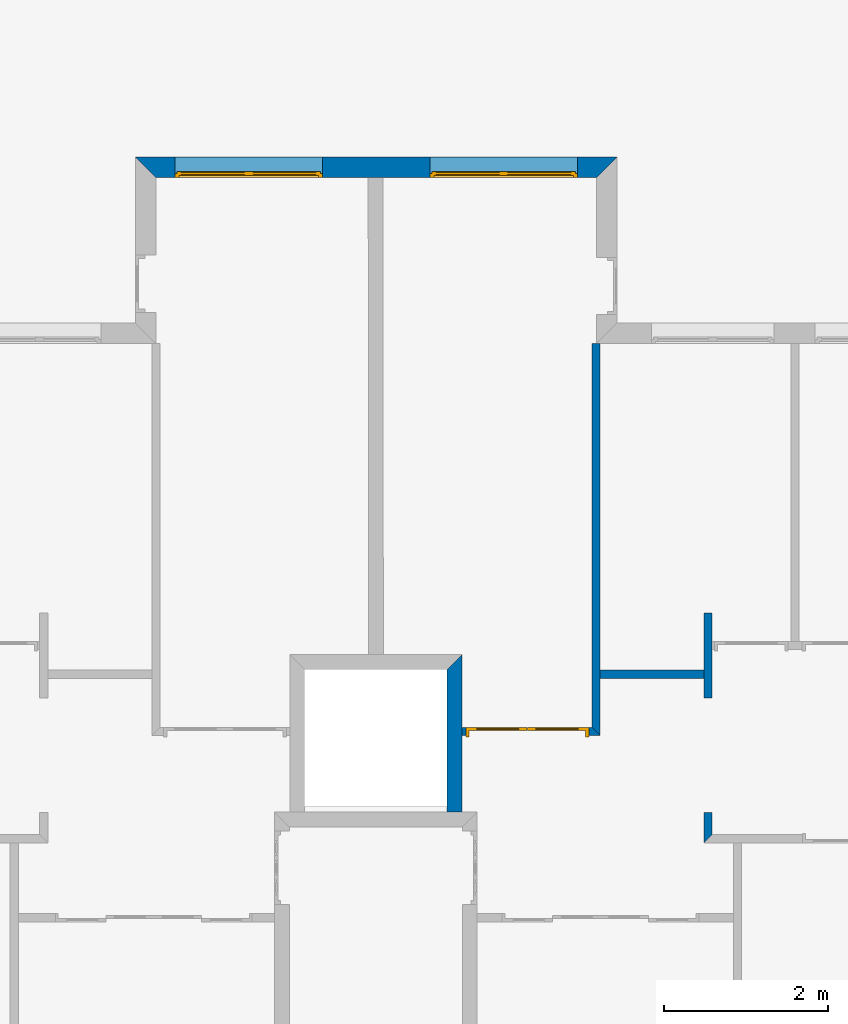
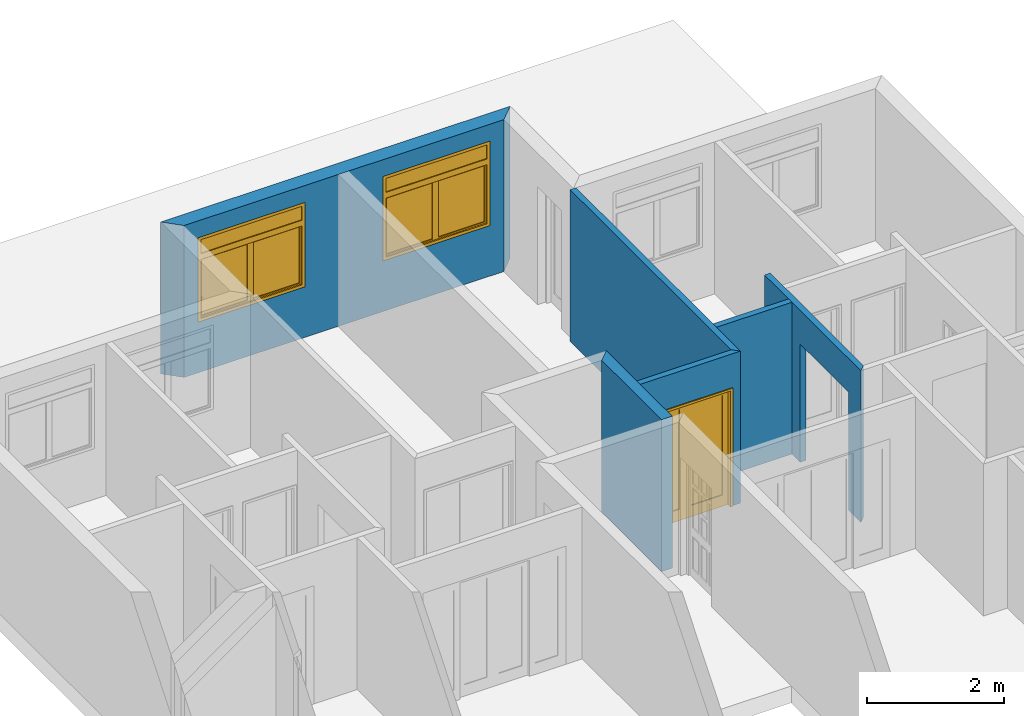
# One storey, part 11 of 12: 6 walls, 2 windows, 1 door, 4 openings.
"""IFC2X3 building model written with IfcOpenShell, lengths in metres."""

from ifc_helpers import new_model, entity, si_unit, converted_unit, direction, frame, frame_2d, origin_with_axes, place, context, project, spatial, polyline, rectangle, outline, extrude, faceted_brep, source, transform, mapped, material, layer, layer_set, layer_usage, type_object, element, fill, save


model = new_model("IFC2X3")

# Units and contexts
context_of_model = context(None, 3, precision=1e-05, world=origin_with_axes(), true_north=direction((6.123234e-17, 1.0)))
plan_context = context("Plan", 3, precision=1e-05, world=origin_with_axes(), true_north=direction((6.123234e-17, 1.0)))
model_context = context("Model", 3, precision=1e-05, world=origin_with_axes(), true_north=direction((6.123234e-17, 1.0)))
ifc_project = project(units=[si_unit("LENGTHUNIT", "METRE"), si_unit("AREAUNIT", "SQUARE_METRE"), si_unit("VOLUMEUNIT", "CUBIC_METRE"), converted_unit("PLANEANGLEUNIT", "DEGREE", entity("IfcPlaneAngleMeasure", 0.017453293), si_unit("PLANEANGLEUNIT", "RADIAN"), dimensions=[0, 0, 0, 0, 0, 0, 0]), si_unit("SOLIDANGLEUNIT", "STERADIAN"), si_unit("MASSUNIT", "GRAM"), si_unit("TIMEUNIT", "SECOND"), si_unit("THERMODYNAMICTEMPERATUREUNIT", "DEGREE_CELSIUS"), si_unit("LUMINOUSINTENSITYUNIT", "LUMEN")], contexts=[context_of_model, plan_context, model_context])

# Site, building, storey
site_placement = place(None, origin_with_axes())
site = spatial("IfcSite", under=ifc_project, at=site_placement, Name="Por defecto Sitio", CompositionType="ELEMENT")
building_placement = place(site_placement, origin_with_axes())
building = spatial("IfcBuilding", under=site, at=building_placement, Name="Por defecto Edificio", CompositionType="ELEMENT")
storey_placement = place(building_placement, frame((0.0, 0.0, 4.2), z_axis=(0.0, 0.0, 1.0), x_axis=(1.0, 0.0, 0.0)))
storey = spatial("IfcBuildingStorey", under=building, at=storey_placement, Name="Primera", CompositionType="ELEMENT", Elevation=4.2)

# Wall, openings, windows
ifc_material = material(Name="Ladrillo común")
ifc_layer_1 = layer(ifc_material, 0.25, ventilated="UNKNOWN")
ifc_layer_set_1 = layer_set([ifc_layer_1], Name="Ladrillo común")
ifc_layer_usage_1 = layer_usage(ifc_layer_set_1, "AXIS2", "NEGATIVE", 0.0)
wall_type_1 = type_object("IfcWallType", Name="Ladrillo común", PredefinedType="NOTDEFINED")
wall_1_placement = place(storey_placement, frame((5.0781164, 15.472599, 0.0), z_axis=(0.0, 0.0, 1.0), x_axis=(1.0, 0.0, 0.0)))
wall_1 = element("IfcWallStandardCase", 1, at=wall_1_placement, inside=storey, type_object=wall_type_1, material=ifc_layer_usage_1, Name="Muro-014", context=context_of_model, shape_type="SweptSolid", body=[
    extrude(outline(polyline([(0.25, -0.25), (5.627937, -0.25), (5.877937, 0.0), (0.0, 0.0), (0.25, -0.25)])), origin_with_axes(), (0.0, 0.0, 1.0), 2.7),
])
opening_1_placement = place(wall_1_placement, frame((4.4950854, -0.25, 0.9), z_axis=(0.0, 0.0, 1.0), x_axis=(1.0, 0.0, 0.0)))
opening_1 = element("IfcOpeningElement", 2, at=opening_1_placement, cuts=wall_1, ObjectType="Opening", context=model_context, shape_type="SweptSolid", body=[
    extrude(rectangle(XDim=1.8, YDim=1.5, at=frame_2d((0.0, 0.75), x_axis=(-1.0, 0.0))), frame((0.0, 0.0, 0.0), z_axis=(0.0, 1.0, 0.0), x_axis=(-1.0, 0.0, 0.0)), (0.0, 0.0, 1.0), 0.25),
])
opening_2_placement = place(wall_1_placement, frame((1.3828517, -0.25, 0.9), z_axis=(0.0, 0.0, 1.0), x_axis=(1.0, 0.0, 0.0)))
opening_2 = element("IfcOpeningElement", 3, at=opening_2_placement, cuts=wall_1, ObjectType="Opening", context=model_context, shape_type="SweptSolid", body=[
    extrude(rectangle(XDim=1.8, YDim=1.5, at=frame_2d((4.4408921e-16, 0.75), x_axis=(1.0, 0.0))), frame((0.0, 0.0, 0.0), z_axis=(0.0, 1.0, 0.0), x_axis=(-1.0, 0.0, 0.0)), (0.0, 0.0, 1.0), 0.25),
])
window_style_1 = type_object("IfcWindowStyle", Name="V M Doble 12", ConstructionType="NOTDEFINED", OperationType="DOUBLE_PANEL_HORIZONTAL", ParameterTakesPrecedence=False, Sizeable=False)
shared_shape_1 = source(origin_with_axes(), model_context, "Body", "Brep", [
    faceted_brep([(0.025, 0.05, 0.05), (0.0, 0.05, 0.05), (0.0, 0.05, 1.45), (0.05, 0.05, 1.45), (0.05, 0.05, 1.2), (0.05, 0.05, 1.125), (0.025, 0.05, 1.125), (0.025, 0.025, 0.05), (0.05, 0.025, 0.05), (0.05, 0.0, 0.05), (0.0, 0.0, 0.05), (0.0, 0.0, 1.45), (0.05, 0.0, 1.45), (0.05, 0.0, 1.2), (0.05, 0.025, 1.125), (0.05, 0.0, 1.1), (0.05, 0.025, 1.1), (0.025, 0.025, 1.125)], [[[0, 1, 2, 3, 4, 5, 6]], [[7, 8, 9, 10, 1, 0]], [[2, 1, 10, 11]], [[3, 2, 11, 12]], [[4, 3, 12, 13]], [[14, 5, 4, 13, 15, 16]], [[14, 17, 6, 5]], [[6, 17, 7, 0]], [[16, 8, 7, 17, 14]], [[16, 15, 9, 8]], [[13, 12, 11, 10, 9, 15]]]),
    faceted_brep([(1.775, 0.05, 1.125), (1.75, 0.05, 1.125), (1.75, 0.05, 1.2), (1.75, 0.05, 1.45), (1.8, 0.05, 1.45), (1.8, 0.05, 0.05), (1.775, 0.05, 0.05), (1.775, 0.025, 1.125), (1.75, 0.025, 1.125), (1.75, 0.025, 1.1), (1.75, 0.0, 1.1), (1.75, 0.0, 1.2), (1.75, 0.0, 1.45), (1.8, 0.0, 1.45), (1.8, 0.0, 0.05), (1.775, 0.025, 0.05), (1.75, 0.0, 0.05), (1.75, 0.025, 0.05)], [[[0, 1, 2, 3, 4, 5, 6]], [[0, 7, 8, 1]], [[8, 9, 10, 11, 2, 1]], [[3, 2, 11, 12]], [[4, 3, 12, 13]], [[5, 4, 13, 14]], [[15, 6, 5, 14, 16, 17]], [[6, 15, 7, 0]], [[17, 9, 8, 7, 15]], [[17, 16, 10, 9]], [[14, 13, 12, 11, 10, 16]]]),
    faceted_brep([(0.05, 0.05, 1.125), (0.05, 0.05, 1.2), (1.75, 0.05, 1.2), (1.75, 0.05, 1.125), (0.9, 0.05, 1.125), (0.05, 0.025, 1.125), (0.05, 0.025, 1.1), (0.05, 0.0, 1.1), (0.05, 0.0, 1.2), (1.75, 0.0, 1.2), (1.75, 0.025, 1.125), (1.75, 0.0, 1.1), (1.75, 0.025, 1.1), (0.9, 0.025, 1.125)], [[[0, 1, 2, 3, 4]], [[5, 6, 7, 8, 1, 0]], [[2, 1, 8, 9]], [[10, 3, 2, 9, 11, 12]], [[10, 13, 4, 3]], [[4, 13, 5, 0]], [[12, 6, 5, 13, 10]], [[12, 11, 7, 6]], [[9, 8, 7, 11]]]),
    faceted_brep([(1.75, 0.025, 0.05), (1.75, 0.0, 0.05), (1.8, 0.0, 0.05), (1.8, 0.05, 0.05), (1.775, 0.05, 0.05), (1.775, 0.025, 0.05), (0.05, 0.025, 0.05), (0.05, 0.0, 0.05), (0.0, 0.0, 0.05), (0.0, 0.0, 0.0), (1.8, 0.0, 0.0), (1.8, 0.05, 0.0), (0.025, 0.05, 0.025), (0.9, 0.05, 0.025), (1.775, 0.05, 0.025), (0.0, 0.05, 0.0), (0.0, 0.05, 0.05), (0.025, 0.05, 0.05), (1.775, 0.025, 0.025), (0.9, 0.025, 0.025), (0.025, 0.025, 0.025), (0.025, 0.025, 0.05)], [[[0, 1, 2, 3, 4, 5]], [[6, 7, 1, 0]], [[8, 9, 10, 2, 1, 7]], [[11, 3, 2, 10]], [[12, 13, 14, 4, 3, 11, 15, 16, 17]], [[14, 18, 5, 4]], [[5, 18, 19, 20, 21, 6, 0]], [[21, 17, 16, 8, 7, 6]], [[16, 15, 9, 8]], [[15, 11, 10, 9]], [[12, 20, 19, 13]], [[13, 19, 18, 14]], [[21, 20, 12, 17]]]),
    faceted_brep([(1.75, 0.0, 1.45), (1.75, 0.05, 1.45), (1.8, 0.05, 1.45), (1.8, 0.0, 1.45), (0.05, 0.0, 1.45), (0.05, 0.05, 1.45), (0.0, 0.05, 1.45), (0.0, 0.05, 1.5), (1.8, 0.05, 1.5), (1.8, 0.0, 1.5), (0.0, 0.0, 1.5), (0.0, 0.0, 1.45)], [[[0, 1, 2, 3]], [[4, 5, 1, 0]], [[1, 5, 6, 7, 8, 2]], [[3, 2, 8, 9]], [[0, 3, 9, 10, 11, 4]], [[11, 6, 5, 4]], [[10, 7, 6, 11]], [[9, 8, 7, 10]]]),
    faceted_brep([(1.725, 0.025, 0.075), (1.725, 0.025, 1.075), (1.725, 0.075, 1.075), (1.725, 0.075, 0.075), (1.775, 0.025, 0.075), (1.775, 0.025, 1.075), (1.775, 0.075, 1.075), (1.775, 0.075, 0.075)], [[[0, 1, 2, 3]], [[0, 4, 5, 1]], [[1, 5, 6, 2]], [[3, 2, 6, 7]], [[4, 0, 3, 7]], [[5, 4, 7, 6]]]),
    faceted_brep([(0.9, 0.025, 0.075), (0.9, 0.025, 1.075), (0.9, 0.075, 1.075), (0.9, 0.075, 0.075), (0.95, 0.025, 0.075), (0.95, 0.025, 1.075), (0.95, 0.075, 1.075), (0.95, 0.075, 0.075)], [[[0, 1, 2, 3]], [[0, 4, 5, 1]], [[1, 5, 6, 2]], [[3, 2, 6, 7]], [[4, 0, 3, 7]], [[5, 4, 7, 6]]]),
    faceted_brep([(0.9, 0.025, 0.025), (0.9, 0.025, 0.075), (0.9, 0.075, 0.075), (0.9, 0.075, 0.025), (1.775, 0.025, 0.025), (1.775, 0.025, 0.075), (1.725, 0.025, 0.075), (0.95, 0.025, 0.075), (0.95, 0.075, 0.075), (1.725, 0.075, 0.075), (1.775, 0.075, 0.075), (1.775, 0.075, 0.025)], [[[0, 1, 2, 3]], [[0, 4, 5, 6, 7, 1]], [[1, 7, 8, 2]], [[3, 2, 8, 9, 10, 11]], [[4, 0, 3, 11]], [[5, 4, 11, 10]], [[6, 5, 10, 9]], [[7, 6, 9, 8]]]),
    faceted_brep([(1.775, 0.025, 1.125), (1.775, 0.025, 1.075), (1.775, 0.075, 1.075), (1.775, 0.075, 1.125), (0.9, 0.025, 1.125), (0.9, 0.025, 1.075), (0.95, 0.025, 1.075), (1.725, 0.025, 1.075), (1.725, 0.075, 1.075), (0.95, 0.075, 1.075), (0.9, 0.075, 1.075), (0.9, 0.075, 1.125)], [[[0, 1, 2, 3]], [[0, 4, 5, 6, 7, 1]], [[1, 7, 8, 2]], [[3, 2, 8, 9, 10, 11]], [[4, 0, 3, 11]], [[5, 4, 11, 10]], [[6, 5, 10, 9]], [[7, 6, 9, 8]]]),
    faceted_brep([(1.725, 0.04, 0.075), (0.95, 0.04, 0.075), (0.95, 0.06, 0.075), (1.725, 0.06, 0.075), (1.725, 0.04, 1.075), (0.95, 0.04, 1.075), (0.95, 0.06, 1.075), (1.725, 0.06, 1.075)], [[[0, 1, 2, 3]], [[0, 4, 5, 1]], [[1, 5, 6, 2]], [[3, 2, 6, 7]], [[4, 0, 3, 7]], [[5, 4, 7, 6]]]),
    faceted_brep([(0.85, 0.025, 0.075), (0.85, 0.025, 1.075), (0.85, 0.075, 1.075), (0.85, 0.075, 0.075), (0.9, 0.025, 0.075), (0.9, 0.025, 1.075), (0.9, 0.075, 1.075), (0.9, 0.075, 0.075)], [[[0, 1, 2, 3]], [[0, 4, 5, 1]], [[1, 5, 6, 2]], [[3, 2, 6, 7]], [[4, 0, 3, 7]], [[5, 4, 7, 6]]]),
    faceted_brep([(0.025, 0.025, 0.075), (0.025, 0.025, 1.075), (0.025, 0.075, 1.075), (0.025, 0.075, 0.075), (0.075, 0.025, 0.075), (0.075, 0.025, 1.075), (0.075, 0.075, 1.075), (0.075, 0.075, 0.075)], [[[0, 1, 2, 3]], [[0, 4, 5, 1]], [[1, 5, 6, 2]], [[3, 2, 6, 7]], [[4, 0, 3, 7]], [[5, 4, 7, 6]]]),
    faceted_brep([(0.025, 0.025, 0.025), (0.025, 0.025, 0.075), (0.025, 0.075, 0.075), (0.025, 0.075, 0.025), (0.9, 0.025, 0.025), (0.9, 0.025, 0.075), (0.85, 0.025, 0.075), (0.075, 0.025, 0.075), (0.075, 0.075, 0.075), (0.85, 0.075, 0.075), (0.9, 0.075, 0.075), (0.9, 0.075, 0.025)], [[[0, 1, 2, 3]], [[0, 4, 5, 6, 7, 1]], [[1, 7, 8, 2]], [[3, 2, 8, 9, 10, 11]], [[4, 0, 3, 11]], [[5, 4, 11, 10]], [[6, 5, 10, 9]], [[7, 6, 9, 8]]]),
    faceted_brep([(0.9, 0.025, 1.125), (0.9, 0.025, 1.075), (0.9, 0.075, 1.075), (0.9, 0.075, 1.125), (0.025, 0.025, 1.125), (0.025, 0.025, 1.075), (0.075, 0.025, 1.075), (0.85, 0.025, 1.075), (0.85, 0.075, 1.075), (0.075, 0.075, 1.075), (0.025, 0.075, 1.075), (0.025, 0.075, 1.125)], [[[0, 1, 2, 3]], [[0, 4, 5, 6, 7, 1]], [[1, 7, 8, 2]], [[3, 2, 8, 9, 10, 11]], [[4, 0, 3, 11]], [[5, 4, 11, 10]], [[6, 5, 10, 9]], [[7, 6, 9, 8]]]),
    faceted_brep([(0.85, 0.04, 0.075), (0.075, 0.04, 0.075), (0.075, 0.06, 0.075), (0.85, 0.06, 0.075), (0.85, 0.04, 1.075), (0.075, 0.04, 1.075), (0.075, 0.06, 1.075), (0.85, 0.06, 1.075)], [[[0, 1, 2, 3]], [[0, 4, 5, 1]], [[1, 5, 6, 2]], [[3, 2, 6, 7]], [[4, 0, 3, 7]], [[5, 4, 7, 6]]]),
    faceted_brep([(1.75, 0.015, 1.2), (0.05, 0.015, 1.2), (0.05, 0.035, 1.2), (1.75, 0.035, 1.2), (1.75, 0.015, 1.45), (0.05, 0.015, 1.45), (0.05, 0.035, 1.45), (1.75, 0.035, 1.45)], [[[0, 1, 2, 3]], [[0, 4, 5, 1]], [[1, 5, 6, 2]], [[3, 2, 6, 7]], [[4, 0, 3, 7]], [[5, 4, 7, 6]]]),
])
window_1_placement = place(opening_1_placement, frame((-0.9, 0.0, 0.0), z_axis=(0.0, 0.0, 1.0), x_axis=(1.0, 0.0, 0.0)))
window_1 = element("IfcWindow", 4, at=window_1_placement, inside=storey, type_object=window_style_1, Name="V07", OverallHeight=1.5, OverallWidth=1.8, context=model_context, shape_type="MappedRepresentation", body=[
    mapped(shared_shape_1, transform((0.0, 0.0, 0.0), scale=1.0)),
])
fill(opening_1, window_1)
window_style_2 = type_object("IfcWindowStyle", Name="V M Doble 12", ConstructionType="NOTDEFINED", OperationType="DOUBLE_PANEL_HORIZONTAL", ParameterTakesPrecedence=False, Sizeable=False)
window_2_placement = place(opening_2_placement, frame((-0.9, 0.0, 0.0), z_axis=(0.0, 0.0, 1.0), x_axis=(1.0, 0.0, 0.0)))
window_2 = element("IfcWindow", 5, at=window_2_placement, inside=storey, type_object=window_style_2, Name="V08", OverallHeight=1.5, OverallWidth=1.8, context=model_context, shape_type="MappedRepresentation", body=[
    mapped(shared_shape_1, transform((0.0, 0.0, 0.0), scale=1.0)),
])
fill(opening_2, window_2)

# Wall
ifc_layer_2 = layer(ifc_material, 0.18, ventilated="UNKNOWN")
ifc_layer_set_2 = layer_set([ifc_layer_2], Name="Ladrillo común")
ifc_layer_usage_2 = layer_usage(ifc_layer_set_2, "AXIS2", "NEGATIVE", 0.0)
wall_type_2 = type_object("IfcWallType", Name="Ladrillo común", PredefinedType="NOTDEFINED")
wall_2_placement = place(storey_placement, frame((9.065, 9.4007615, 0.0), z_axis=(0.0, 0.0, 1.0), x_axis=(0.0, -1.0, 0.0)))
element("IfcWallStandardCase", 6, at=wall_2_placement, inside=storey, type_object=wall_type_2, material=ifc_layer_usage_2, Name="Muro-012", context=context_of_model, shape_type="SweptSolid", body=[
    extrude(outline(polyline([(0.18, -0.18), (1.9231052, -0.18), (1.9231052, 0.0), (0.0, 0.0), (0.18, -0.18)])), origin_with_axes(), (0.0, 0.0, 1.0), 2.7),
])

# Wall, opening
ifc_layer_3 = layer(ifc_material, 0.1, ventilated="UNKNOWN")
ifc_layer_set_3 = layer_set([ifc_layer_3], Name="Ladrillo común")
ifc_layer_usage_3 = layer_usage(ifc_layer_set_3, "AXIS2", "POSITIVE", 0.0)
wall_type_3 = type_object("IfcWallType", Name="Ladrillo común", PredefinedType="NOTDEFINED")
wall_3_placement = place(storey_placement, frame((12.119835, 7.2022014, 0.0), z_axis=(0.0, 0.0, 1.0), x_axis=(0.0, 1.0, 0.0)))
wall_3 = element("IfcWallStandardCase", 7, at=wall_3_placement, inside=storey, type_object=wall_type_3, material=ifc_layer_usage_3, Name="Muro-025", context=context_of_model, shape_type="SweptSolid", body=[
    extrude(outline(polyline([(0.0, 0.0), (2.7087182, 0.0), (2.7087182, 0.1), (-0.1, 0.1), (0.0, 0.0)])), origin_with_axes(), (0.0, 0.0, 1.0), 2.7),
])
opening_3_placement = place(wall_3_placement, frame((0.96876743, 0.0, 0.0), z_axis=(0.0, 0.0, 1.0), x_axis=(1.0, 0.0, 0.0)))
element("IfcOpeningElement", 8, at=opening_3_placement, inside=storey, cuts=wall_3, ObjectType="Opening", context=model_context, shape_type="SweptSolid", body=[
    extrude(rectangle(XDim=1.4, YDim=2.1, at=frame_2d((4.4408921e-16, 1.05), x_axis=(-1.0, 0.0))), frame((0.0, 0.0, 0.0), z_axis=(0.0, 1.0, 0.0), x_axis=(-1.0, 0.0, 0.0)), (0.0, 0.0, 1.0), 0.1),
])

# Wall
ifc_layer_usage_4 = layer_usage(ifc_layer_set_3, "AXIS2", "NEGATIVE", 0.0)
wall_4_placement = place(storey_placement, frame((10.751884, 9.2109196, 0.0), z_axis=(0.0, 0.0, 1.0), x_axis=(1.0, 0.0, 0.0)))
element("IfcWallStandardCase", 9, at=wall_4_placement, inside=storey, type_object=wall_type_3, material=ifc_layer_usage_4, Name="Muro-027", context=context_of_model, shape_type="SweptSolid", body=[
    extrude(outline(polyline([(0.0, -0.1), (1.2679512, -0.1), (1.2679512, 0.0), (0.0, 0.0), (0.0, -0.1)])), origin_with_axes(), (0.0, 0.0, 1.0), 2.7),
])

# Wall, opening, door
ifc_layer_usage_5 = layer_usage(ifc_layer_set_3, "AXIS2", "NEGATIVE", 0.0)
wall_5_placement = place(storey_placement, frame((9.065, 8.5109196, 0.0), z_axis=(0.0, 0.0, 1.0), x_axis=(1.0, 0.0, 0.0)))
wall_5 = element("IfcWallStandardCase", 10, at=wall_5_placement, inside=storey, type_object=wall_type_3, material=ifc_layer_usage_5, Name="Muro-028", context=context_of_model, shape_type="SweptSolid", body=[
    extrude(outline(polyline([(-1.7763568e-14, -0.1), (1.6868836, -0.1), (1.5868836, 0.0), (-1.7763568e-14, 0.0), (-1.7763568e-14, -0.1)])), origin_with_axes(), (0.0, 0.0, 1.0), 2.7),
])
opening_4_placement = place(wall_5_placement, frame((0.79761165, -0.1, 0.0), z_axis=(0.0, 0.0, 1.0), x_axis=(1.0, 0.0, 0.0)))
opening_4 = element("IfcOpeningElement", 11, at=opening_4_placement, cuts=wall_5, ObjectType="Opening", context=model_context, shape_type="SweptSolid", body=[
    extrude(rectangle(XDim=1.5, YDim=2.1, at=frame_2d((0.0, 1.05), x_axis=(-1.0, 0.0))), frame((0.0, 0.0, 0.0), z_axis=(0.0, 1.0, 0.0), x_axis=(-1.0, 0.0, 0.0)), (0.0, 0.0, 1.0), 0.1),
])
door_style = type_object("IfcDoorStyle", Name="P2 12", ConstructionType="NOTDEFINED", OperationType="DOUBLE_DOOR_SINGLE_SWING", ParameterTakesPrecedence=False, Sizeable=False)
shared_shape_2 = source(origin_with_axes(), model_context, "Body", "Brep", [
    faceted_brep([(0.04, 0.075, 0.0), (0.04, 0.075, 2.06), (0.04, 0.0, 2.06), (0.04, 0.0, 0.0), (0.028, 0.075, 2.06), (0.028, 0.075, 0.0), (0.028, 0.115, 2.06), (0.0, 0.115, 2.06), (0.0, 0.0, 2.06), (0.0, 0.0, 0.0), (0.0, 0.115, 0.0), (0.028, 0.115, 0.0)], [[[0, 1, 2, 3]], [[4, 1, 0, 5]], [[4, 6, 7, 8, 2, 1]], [[9, 3, 2, 8]], [[5, 0, 3, 9, 10, 11]], [[6, 4, 5, 11]], [[6, 11, 10, 7]], [[8, 7, 10, 9]]]),
    faceted_brep([(1.472, 0.075, 2.06), (1.46, 0.075, 2.06), (1.46, 0.0, 2.06), (1.5, 0.0, 2.06), (1.5, 0.115, 2.06), (1.472, 0.115, 2.06), (1.472, 0.075, 0.0), (1.46, 0.075, 0.0), (1.46, 0.0, 0.0), (1.5, 0.0, 0.0), (1.5, 0.115, 0.0), (1.472, 0.115, 0.0)], [[[0, 1, 2, 3, 4, 5]], [[1, 0, 6, 7]], [[1, 7, 8, 2]], [[8, 9, 3, 2]], [[9, 10, 4, 3]], [[11, 5, 4, 10]], [[0, 5, 11, 6]], [[6, 11, 10, 9, 8, 7]]]),
    faceted_brep([(0.028, 0.115, 2.072), (0.028, 0.115, 2.06), (0.0, 0.115, 2.06), (0.0, 0.115, 2.1), (1.5, 0.115, 2.1), (1.5, 0.115, 2.06), (1.472, 0.115, 2.06), (1.472, 0.115, 2.072), (0.028, 0.075, 2.072), (0.028, 0.075, 2.06), (0.04, 0.075, 2.06), (0.04, 0.0, 2.06), (0.0, 0.0, 2.06), (0.0, 0.0, 2.1), (1.5, 0.0, 2.1), (1.5, 0.0, 2.06), (1.472, 0.075, 2.06), (1.46, 0.0, 2.06), (1.46, 0.075, 2.06), (1.472, 0.075, 2.072)], [[[0, 1, 2, 3, 4, 5, 6, 7]], [[1, 0, 8, 9]], [[9, 10, 11, 12, 2, 1]], [[13, 3, 2, 12]], [[14, 4, 3, 13]], [[15, 5, 4, 14]], [[16, 6, 5, 15, 17, 18]], [[7, 6, 16, 19]], [[0, 7, 19, 8]], [[16, 18, 10, 9, 8, 19]], [[10, 18, 17, 11]], [[14, 13, 12, 11, 17, 15]]]),
    faceted_brep([(1.472, 0.115, 0.2), (1.472, 0.075, 0.2), (1.372, 0.075, 0.2), (1.372, 0.115, 0.2), (1.472, 0.115, 1.972), (1.472, 0.075, 1.972), (1.372, 0.075, 1.972), (1.372, 0.115, 1.972)], [[[0, 1, 2, 3]], [[4, 5, 1, 0]], [[1, 5, 6, 2]], [[3, 2, 6, 7]], [[0, 3, 7, 4]], [[7, 6, 5, 4]]]),
    faceted_brep([(0.751, 0.115, 0.2), (0.751, 0.075, 0.2), (0.751, 0.075, 1.972), (0.751, 0.115, 1.972), (0.851, 0.115, 0.2), (0.851, 0.075, 0.2), (0.851, 0.075, 1.972), (0.851, 0.115, 1.972)], [[[0, 1, 2, 3]], [[4, 5, 1, 0]], [[1, 5, 6, 2]], [[3, 2, 6, 7]], [[0, 3, 7, 4]], [[7, 6, 5, 4]]]),
    faceted_brep([(1.472, 0.115, 0.0), (1.472, 0.075, 0.0), (0.751, 0.075, 0.0), (0.751, 0.115, 0.0), (1.472, 0.115, 0.2), (1.472, 0.075, 0.2), (1.372, 0.075, 0.2), (0.851, 0.075, 0.2), (0.751, 0.075, 0.2), (0.751, 0.115, 0.2), (0.851, 0.115, 0.2), (1.372, 0.115, 0.2)], [[[0, 1, 2, 3]], [[4, 5, 1, 0]], [[1, 5, 6, 7, 8, 2]], [[3, 2, 8, 9]], [[0, 3, 9, 10, 11, 4]], [[11, 6, 5, 4]], [[10, 7, 6, 11]], [[9, 8, 7, 10]]]),
    faceted_brep([(1.472, 0.115, 2.072), (1.472, 0.075, 2.072), (1.472, 0.075, 1.972), (1.472, 0.115, 1.972), (0.751, 0.115, 2.072), (0.751, 0.075, 2.072), (0.751, 0.075, 1.972), (0.851, 0.075, 1.972), (1.372, 0.075, 1.972), (1.372, 0.115, 1.972), (0.851, 0.115, 1.972), (0.751, 0.115, 1.972)], [[[0, 1, 2, 3]], [[4, 5, 1, 0]], [[1, 5, 6, 7, 8, 2]], [[3, 2, 8, 9]], [[0, 3, 9, 10, 11, 4]], [[11, 6, 5, 4]], [[10, 7, 6, 11]], [[9, 8, 7, 10]]]),
    faceted_brep([(1.372, 0.101, 0.2), (1.372, 0.089, 0.2), (0.851, 0.089, 0.2), (0.851, 0.101, 0.2), (1.372, 0.101, 1.972), (1.372, 0.089, 1.972), (0.851, 0.089, 1.972), (0.851, 0.101, 1.972)], [[[0, 1, 2, 3]], [[4, 5, 1, 0]], [[1, 5, 6, 2]], [[3, 2, 6, 7]], [[0, 3, 7, 4]], [[7, 6, 5, 4]]]),
    faceted_brep([(0.028, 0.115, 0.2), (0.128, 0.115, 0.2), (0.128, 0.075, 0.2), (0.028, 0.075, 0.2), (0.028, 0.115, 1.972), (0.128, 0.115, 1.972), (0.128, 0.075, 1.972), (0.028, 0.075, 1.972)], [[[0, 1, 2, 3]], [[0, 4, 5, 1]], [[1, 5, 6, 2]], [[3, 2, 6, 7]], [[4, 0, 3, 7]], [[5, 4, 7, 6]]]),
    faceted_brep([(0.749, 0.115, 0.2), (0.749, 0.115, 1.972), (0.749, 0.075, 1.972), (0.749, 0.075, 0.2), (0.649, 0.115, 0.2), (0.649, 0.115, 1.972), (0.649, 0.075, 1.972), (0.649, 0.075, 0.2)], [[[0, 1, 2, 3]], [[0, 4, 5, 1]], [[1, 5, 6, 2]], [[3, 2, 6, 7]], [[4, 0, 3, 7]], [[5, 4, 7, 6]]]),
    faceted_brep([(0.028, 0.115, 0.0), (0.749, 0.115, 0.0), (0.749, 0.075, 0.0), (0.028, 0.075, 0.0), (0.028, 0.115, 0.2), (0.128, 0.115, 0.2), (0.649, 0.115, 0.2), (0.749, 0.115, 0.2), (0.749, 0.075, 0.2), (0.649, 0.075, 0.2), (0.128, 0.075, 0.2), (0.028, 0.075, 0.2)], [[[0, 1, 2, 3]], [[0, 4, 5, 6, 7, 1]], [[1, 7, 8, 2]], [[3, 2, 8, 9, 10, 11]], [[4, 0, 3, 11]], [[5, 4, 11, 10]], [[6, 5, 10, 9]], [[7, 6, 9, 8]]]),
    faceted_brep([(0.028, 0.115, 2.072), (0.028, 0.115, 1.972), (0.028, 0.075, 1.972), (0.028, 0.075, 2.072), (0.749, 0.115, 2.072), (0.749, 0.115, 1.972), (0.649, 0.115, 1.972), (0.128, 0.115, 1.972), (0.128, 0.075, 1.972), (0.649, 0.075, 1.972), (0.749, 0.075, 1.972), (0.749, 0.075, 2.072)], [[[0, 1, 2, 3]], [[0, 4, 5, 6, 7, 1]], [[1, 7, 8, 2]], [[3, 2, 8, 9, 10, 11]], [[4, 0, 3, 11]], [[5, 4, 11, 10]], [[6, 5, 10, 9]], [[7, 6, 9, 8]]]),
    faceted_brep([(0.128, 0.101, 0.2), (0.649, 0.101, 0.2), (0.649, 0.089, 0.2), (0.128, 0.089, 0.2), (0.128, 0.101, 1.972), (0.649, 0.101, 1.972), (0.649, 0.089, 1.972), (0.128, 0.089, 1.972)], [[[0, 1, 2, 3]], [[0, 4, 5, 1]], [[1, 5, 6, 2]], [[3, 2, 6, 7]], [[4, 0, 3, 7]], [[5, 4, 7, 6]]]),
])
door_placement = place(opening_4_placement, frame((-0.75, -0.015, 0.0), z_axis=(0.0, 0.0, 1.0), x_axis=(1.0, 0.0, 0.0)))
door = element("IfcDoor", 12, at=door_placement, inside=storey, type_object=door_style, Name="P27", OverallHeight=2.1, OverallWidth=1.5, context=model_context, shape_type="MappedRepresentation", body=[
    mapped(shared_shape_2, transform((0.0, 0.0, 0.0), scale=1.0)),
])
fill(opening_4, door)

# Wall
ifc_layer_usage_6 = layer_usage(ifc_layer_set_3, "AXIS2", "POSITIVE", 0.0)
wall_6_placement = place(storey_placement, frame((10.751884, 8.5109196, 0.0), z_axis=(0.0, 0.0, 1.0), x_axis=(0.0, 1.0, 0.0)))
element("IfcWallStandardCase", 13, at=wall_6_placement, inside=storey, type_object=wall_type_3, material=ifc_layer_usage_6, Name="Muro-031", context=context_of_model, shape_type="SweptSolid", body=[
    extrude(outline(polyline([(-0.1, 0.0), (4.688253, 0.0), (4.688253, 0.1), (0.0, 0.1), (-0.1, 0.0)])), origin_with_axes(), (0.0, 0.0, 1.0), 2.7),
])

save(model, "model.ifc")
